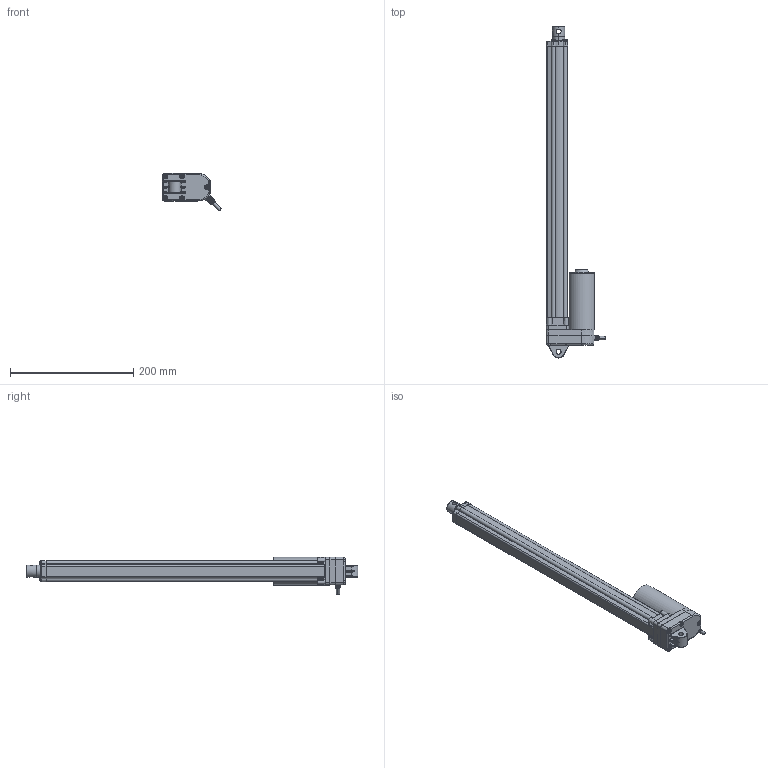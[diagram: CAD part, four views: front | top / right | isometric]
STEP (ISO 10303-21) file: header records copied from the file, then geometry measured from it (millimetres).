
FILE_DESCRIPTION (( 'STEP AP214' ), '1' );
FILE_NAME ('Y809022011102.STEP', '2022-01-11T05:55:47', ( 'HB' ), ( 'china' ), 'SwSTEP 2.0', 'SolidWorks 2012', '' );
FILE_SCHEMA (( 'AUTOMOTIVE_DESIGN' ));
Length unit declared in the file: millimetre
Products named in the file (1): Y809022011102
Bounding box: 96.54 x 539 x 60.73 mm (x, y, z)
Volume: 683293.2 mm3; surface area: 92387.3 mm2
Topology: 1 solids, 2 shells, 699 faces, 1846 edges, 1149 vertices
Faces by surface type: plane 248, bspline 211, cylinder 189, cone 51
Entity records: 40496 total; most frequent: CARTESIAN_POINT 17708, ORIENTED_EDGE 3632, DIRECTION 2467, EDGE_CURVE 1816, VERTEX_POINT 1149, AXIS2_PLACEMENT_3D 867, EDGE_LOOP 739, LINE 733
